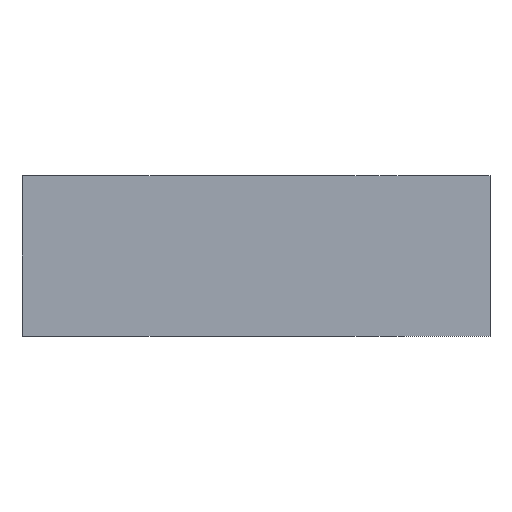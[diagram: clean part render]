
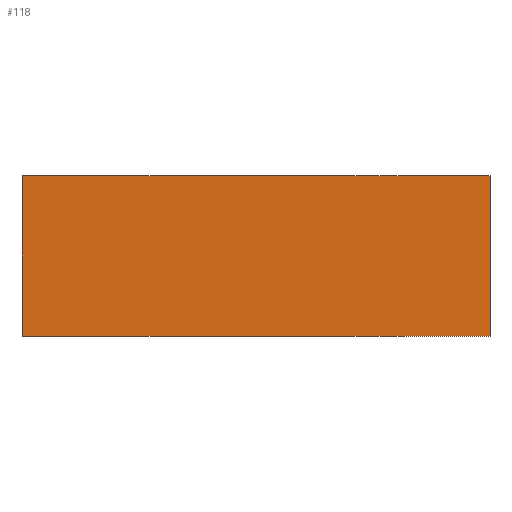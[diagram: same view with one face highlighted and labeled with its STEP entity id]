
A CAD part, front view. The second image highlights one B-rep face of the part: STEP entity #118.
In plain terms, the highlighted planar face has unit normal (0, -1, 0).
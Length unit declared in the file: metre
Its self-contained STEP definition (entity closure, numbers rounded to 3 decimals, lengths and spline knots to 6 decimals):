
#19=ORIENTED_EDGE('',*,*,#47,.T.);
#20=ORIENTED_EDGE('',*,*,#48,.F.);
#21=ORIENTED_EDGE('',*,*,#49,.F.);
#22=ORIENTED_EDGE('',*,*,#44,.T.);
#44=EDGE_CURVE('',#59,#58,#68,.T.);
#47=EDGE_CURVE('',#58,#61,#71,.T.);
#48=EDGE_CURVE('',#62,#61,#72,.T.);
#49=EDGE_CURVE('',#59,#62,#73,.T.);
#58=VERTEX_POINT('',#182);
#59=VERTEX_POINT('',#184);
#61=VERTEX_POINT('',#190);
#62=VERTEX_POINT('',#192);
#68=LINE('',#183,#80);
#71=LINE('',#189,#83);
#72=LINE('',#191,#84);
#73=LINE('',#193,#85);
#80=VECTOR('',#151,1.);
#83=VECTOR('',#156,1.);
#84=VECTOR('',#157,1.);
#85=VECTOR('',#158,1.);
#92=EDGE_LOOP('',(#19,#20,#21,#22));
#102=FACE_BOUND('',#92,.T.);
#112=PLANE('',#138);
#118=ADVANCED_FACE('',(#102),#112,.F.);
#138=AXIS2_PLACEMENT_3D('',#188,#154,#155);
#151=DIRECTION('',(0.,0.,-1.));
#154=DIRECTION('',(0.,1.,0.));
#155=DIRECTION('',(0.,0.,1.));
#156=DIRECTION('',(1.,0.,0.));
#157=DIRECTION('',(0.,0.,-1.));
#158=DIRECTION('',(1.,0.,0.));
#182=CARTESIAN_POINT('',(0.267198,-0.011261,0.206482));
#183=CARTESIAN_POINT('',(0.267198,-0.011261,0.210132));
#184=CARTESIAN_POINT('',(0.267198,-0.011261,0.210132));
#188=CARTESIAN_POINT('',(0.272504,-0.011261,0.210132));
#189=CARTESIAN_POINT('',(0.272504,-0.011261,0.206482));
#190=CARTESIAN_POINT('',(0.277809,-0.011261,0.206482));
#191=CARTESIAN_POINT('',(0.277809,-0.011261,0.210132));
#192=CARTESIAN_POINT('',(0.277809,-0.011261,0.210132));
#193=CARTESIAN_POINT('',(0.272504,-0.011261,0.210132));
